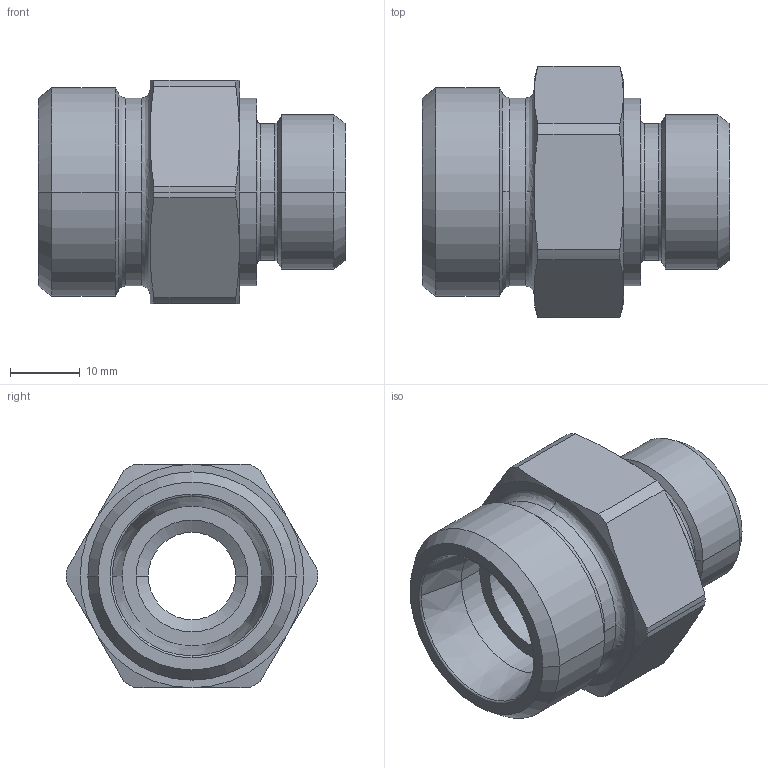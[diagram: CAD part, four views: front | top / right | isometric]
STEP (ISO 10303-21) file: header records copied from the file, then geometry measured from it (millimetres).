
FILE_DESCRIPTION((''),'2;1');
FILE_NAME('100938.stp','2007-10-30T15:34:06',(''),(''),'AutoCAD STEP 2000i','AutoCAD 2000i',', , ');
FILE_SCHEMA(('CONFIG_CONTROL_DESIGN'));
Length unit declared in the file: millimetre
Products named in the file (2): 100938.0; CHIAVE SMUSSATA#0
Assembly tree (1 placements, depth 2):
  100938.0
    CHIAVE SMUSSATA#0
Bounding box: 44 x 36 x 32 mm (x, y, z)
Volume: 18966.5 mm3; surface area: 7501.1 mm2
Topology: 1 solids, 1 shells, 72 faces, 173 edges, 107 vertices
Faces by surface type: cone 26, cylinder 24, plane 12, bspline 8, torus 2
Entity records: 2531 total; most frequent: CARTESIAN_POINT 754, DIRECTION 386, ORIENTED_EDGE 346, EDGE_CURVE 173, AXIS2_PLACEMENT_3D 171, VERTEX_POINT 107, CIRCLE 105, EDGE_LOOP 78
